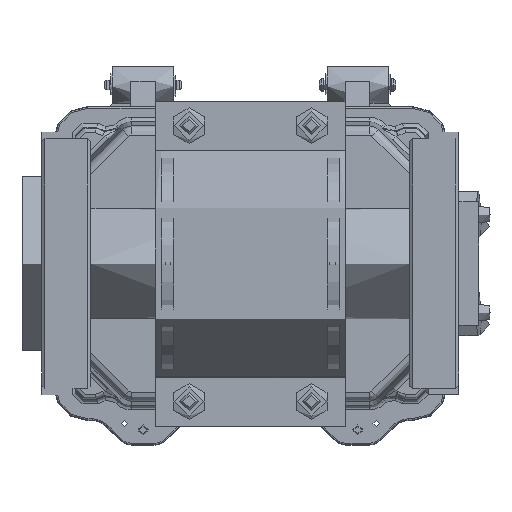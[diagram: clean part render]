
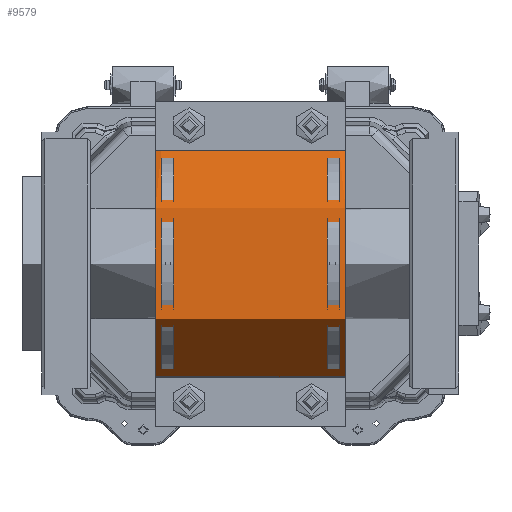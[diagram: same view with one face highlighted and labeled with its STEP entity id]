
A CAD part, front view. The second image highlights one B-rep face of the part: STEP entity #9579.
In plain terms, the highlighted cylindrical face has radius 37 mm (diameter 74 mm), a partial arc.
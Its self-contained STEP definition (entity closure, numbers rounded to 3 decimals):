
#9579=ADVANCED_FACE('',(#25512),#25514,.T.);
#25512=FACE_BOUND('',#25513,.T.);
#25513=EDGE_LOOP('',(#34172,#34173,#34174,#34175,#34176,#34177,#34178,#34179,#34180,
#34181));
#25514=CYLINDRICAL_SURFACE('',#25515,37.);
#25515=AXIS2_PLACEMENT_3D('',#25516,#25517,#25518);
#25516=CARTESIAN_POINT('',(-31.,-9.553,0.));
#25517=DIRECTION('',(1.,0.,0.));
#25518=DIRECTION('',(0.,0.,1.));
#34172=ORIENTED_EDGE('',*,*,#38222,.F.);
#34173=ORIENTED_EDGE('',*,*,#38204,.T.);
#34174=ORIENTED_EDGE('',*,*,#38241,.F.);
#34175=ORIENTED_EDGE('',*,*,#38226,.T.);
#34176=ORIENTED_EDGE('',*,*,#38149,.F.);
#34177=ORIENTED_EDGE('',*,*,#38242,.F.);
#34178=ORIENTED_EDGE('',*,*,#38141,.F.);
#34179=ORIENTED_EDGE('',*,*,#38235,.T.);
#34180=ORIENTED_EDGE('',*,*,#38243,.T.);
#34181=ORIENTED_EDGE('',*,*,#38194,.T.);
#38141=EDGE_CURVE('',#42048,#42050,#42051,.T.);
#38149=EDGE_CURVE('',#42062,#42064,#42065,.F.);
#38194=EDGE_CURVE('',#42137,#41975,#42138,.T.);
#38204=EDGE_CURVE('',#41967,#42151,#42153,.T.);
#38222=EDGE_CURVE('',#41967,#41975,#42181,.F.);
#38226=EDGE_CURVE('',#42187,#42064,#42188,.F.);
#38235=EDGE_CURVE('',#42048,#42197,#42199,.F.);
#38241=EDGE_CURVE('',#42187,#42151,#42209,.T.);
#38242=EDGE_CURVE('',#42050,#42062,#42210,.T.);
#38243=EDGE_CURVE('',#42197,#42137,#42211,.T.);
#41967=VERTEX_POINT('',#54428);
#41975=VERTEX_POINT('',#54446);
#42048=VERTEX_POINT('',#54625);
#42050=VERTEX_POINT('',#54629);
#42051=CIRCLE('',#54630,37.);
#42062=VERTEX_POINT('',#54656);
#42064=VERTEX_POINT('',#54660);
#42065=CIRCLE('',#54661,37.);
#42137=VERTEX_POINT('',#56335);
#42138=LINE('',#56336,#56337);
#42151=VERTEX_POINT('',#56367);
#42153=LINE('',#56371,#56372);
#42181=LINE('',#56515,#56516);
#42187=VERTEX_POINT('',#56531);
#42188=LINE('',#56532,#56533);
#42197=VERTEX_POINT('',#56557);
#42199=LINE('',#56561,#56562);
#42209=CIRCLE('',#56583,37.);
#42210=LINE('',#56587,#56588);
#42211=CIRCLE('',#56590,37.);
#54428=CARTESIAN_POINT('',(29.,-10.553,-36.986));
#54446=CARTESIAN_POINT('',(-29.,-10.553,-36.986));
#54625=CARTESIAN_POINT('',(-29.,-10.553,36.986));
#54629=CARTESIAN_POINT('',(-29.,-11.553,36.946));
#54630=AXIS2_PLACEMENT_3D('',#54631,#54632,#54633);
#54631=CARTESIAN_POINT('',(-29.,-9.553,0.));
#54632=DIRECTION('',(1.,0.,0.));
#54633=DIRECTION('',(0.,-0.027,1.));
#54656=CARTESIAN_POINT('',(29.,-11.553,36.946));
#54660=CARTESIAN_POINT('',(29.,-10.553,36.986));
#54661=AXIS2_PLACEMENT_3D('',#54662,#54663,#54664);
#54662=CARTESIAN_POINT('',(29.,-9.553,0.));
#54663=DIRECTION('',(1.,0.,-0.));
#54664=DIRECTION('',(0.,-0.027,1.));
#56335=CARTESIAN_POINT('',(-31.,-10.553,-36.986));
#56336=CARTESIAN_POINT('',(-31.,-10.553,-36.986));
#56337=VECTOR('',#56338,1.);
#56338=DIRECTION('',(1.,0.,0.));
#56367=CARTESIAN_POINT('',(31.,-10.553,-36.986));
#56371=CARTESIAN_POINT('',(29.,-10.553,-36.986));
#56372=VECTOR('',#56373,1.);
#56373=DIRECTION('',(1.,0.,0.));
#56515=CARTESIAN_POINT('',(-29.,-10.553,-36.986));
#56516=VECTOR('',#56517,1.);
#56517=DIRECTION('',(1.,0.,0.));
#56531=CARTESIAN_POINT('',(31.,-10.553,36.986));
#56532=CARTESIAN_POINT('',(29.,-10.553,36.986));
#56533=VECTOR('',#56534,1.);
#56534=DIRECTION('',(1.,0.,0.));
#56557=CARTESIAN_POINT('',(-31.,-10.553,36.986));
#56561=CARTESIAN_POINT('',(-31.,-10.553,36.986));
#56562=VECTOR('',#56563,1.);
#56563=DIRECTION('',(1.,0.,0.));
#56583=AXIS2_PLACEMENT_3D('',#56584,#56585,#56586);
#56584=CARTESIAN_POINT('',(31.,-9.553,0.));
#56585=DIRECTION('',(1.,0.,0.));
#56586=DIRECTION('',(0.,-0.027,1.));
#56587=CARTESIAN_POINT('',(-29.,-11.553,36.946));
#56588=VECTOR('',#56589,1.);
#56589=DIRECTION('',(1.,0.,0.));
#56590=AXIS2_PLACEMENT_3D('',#56591,#56592,#56593);
#56591=CARTESIAN_POINT('',(-31.,-9.553,0.));
#56592=DIRECTION('',(1.,0.,0.));
#56593=DIRECTION('',(0.,-0.027,1.));
